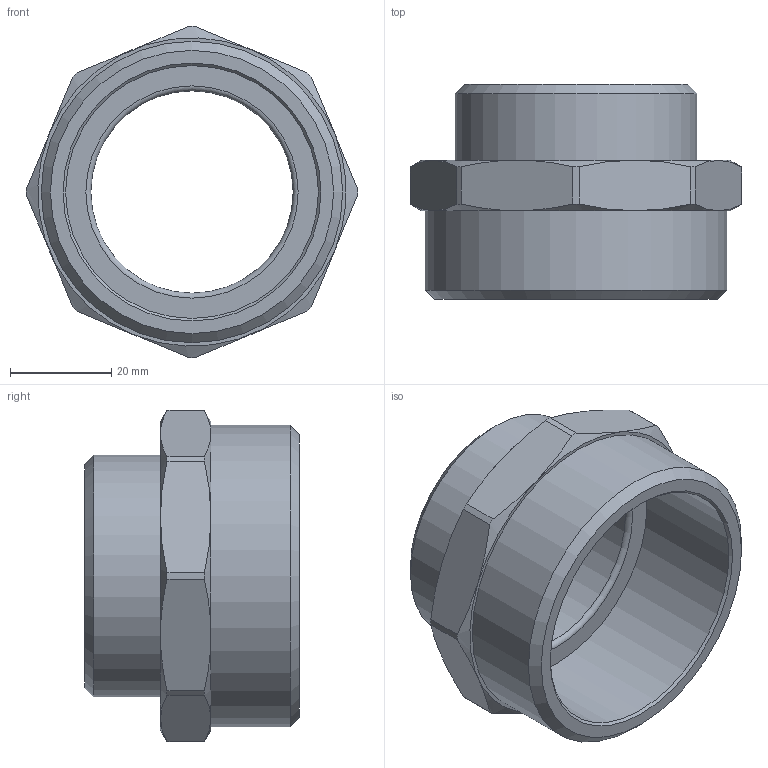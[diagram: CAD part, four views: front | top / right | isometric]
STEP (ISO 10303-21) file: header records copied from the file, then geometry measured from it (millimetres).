
FILE_DESCRIPTION(('STEP AP203'), '1');
FILE_NAME('ÂÐ.753157.015 - VTr.580.N.0908 Íèïïåëü G2xG1 1-2', '2024-07-03T10:26:25', ('Boss'), (''), 'C3D Converter', 'C3D Toolkit', '');
FILE_SCHEMA(('CONFIG_CONTROL_DESIGN'));
Length unit declared in the file: millimetre
Products named in the file (1): ВР.753157.015
Bounding box: 65.5 x 42.5 x 65.5 mm (x, y, z)
Volume: 35827 mm3; surface area: 16625.6 mm2
Topology: 1 solids, 1 shells, 40 faces, 90 edges, 55 vertices
Faces by surface type: cone 14, plane 13, cylinder 12, torus 1
Full cylindrical faces by diameter (mm): 40 x1, 47.803 x1, 50 x1, 59.614 x1
Entity records: 1673 total; most frequent: CARTESIAN_POINT 799, DIRECTION 176, ORIENTED_EDGE 162, EDGE_CURVE 81, AXIS2_PLACEMENT_3D 80, VERTEX_POINT 55, EDGE_LOOP 54, ADVANCED_FACE 40
